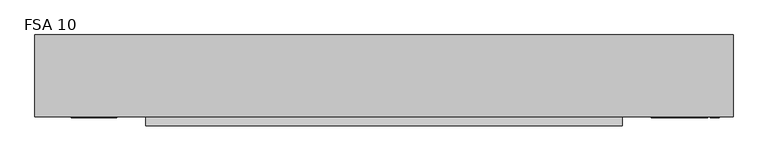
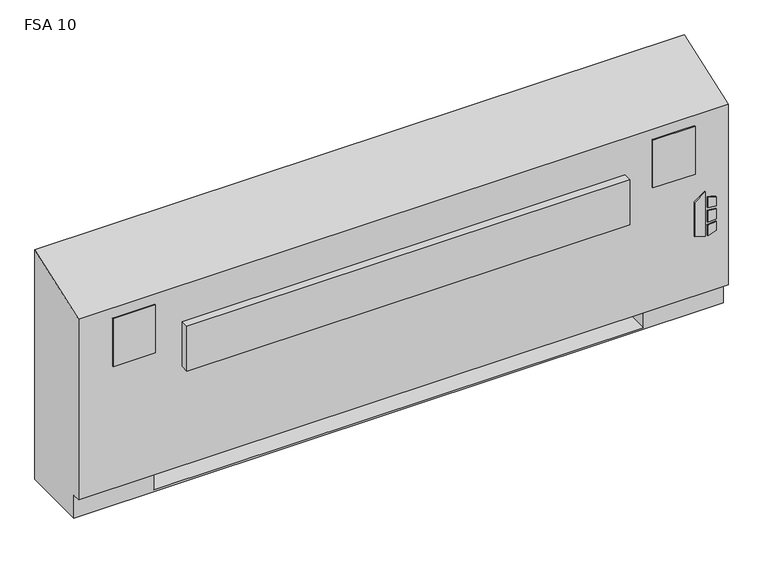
"""IFC4 building model written with IfcOpenShell, lengths in millimetres: proxy geometry, Vertical_Fan_Coil_Unit_-_FSA_-_IEC_-_4-Pipe_FS-FR_LH_2022 : FSA 10."""

from ifc_helpers import new_model, si_unit, point, frame, frame_2d, origin, place, context, project, spatial, polyline, circle_curve, trimmed, segment, composite_curve, outline, extrude, source, transform, mapped, element, save
from ifc_brep_helpers import plane_surface, revolved_surface, advanced_brep


def fsa_10_9be13929(model_context):
    return source(origin(), model_context, "Body", "SolidModel", [
        extrude(outline(polyline([(263.9480703, 1027.1868862), (254.0, 1059.3602728), (396.1709244, 1059.3602728), (373.1489183, 1027.1868862), (263.9480703, 1027.1868862)])), frame((0.0, 12.7, 0.0), z_axis=(0.0, 1.0, 0.0), x_axis=(0.0, 0.0, 1.0)), (0.0, 0.0, 1.0), 3.175),
        extrude(outline(polyline([(342.9473557, 1066.1186058), (339.7449632, 1092.2), (368.9738042, 1092.2), (377.0382193, 1066.1186058), (342.9473557, 1066.1186058)])), frame((0.0, 12.7, 0.0), z_axis=(0.0, 1.0, 0.0), x_axis=(0.0, 0.0, 1.0)), (0.0, 0.0, 1.0), 3.175),
        extrude(outline(polyline([(291.0838288, 1092.2), (287.4183279, 1066.1186058), (254.0, 1066.1186058), (262.6342372, 1092.2), (291.0838288, 1092.2)])), frame((0.0, 12.7, 0.0), z_axis=(0.0, 1.0, 0.0), x_axis=(0.0, 0.0, 1.0)), (0.0, 0.0, 1.0), 3.175),
        extrude(outline(polyline([(330.3989903, 1092.2), (332.6808166, 1066.1186058), (296.7432681, 1066.1186058), (299.4845331, 1092.2), (330.3989903, 1092.2)])), frame((0.0, 12.7, 0.0), z_axis=(0.0, 1.0, 0.0), x_axis=(0.0, 0.0, 1.0)), (0.0, 0.0, 1.0), 3.175),
        extrude(outline(polyline([(1009.65, 223.266), (1009.65, 81.534), (889.0, 81.534), (889.0, 223.266), (1009.65, 223.266)])), frame((0.0, 0.0, 327.025), z_axis=(0.0, 0.0, 1.0), x_axis=(1.0, 0.0, 0.0)), (0.0, 0.0, 1.0), 260.35),
        extrude(outline(polyline([(-596.9, 12.7), (-723.9, 12.7), (-723.9, 15.875), (-596.9, 15.875), (-596.9, 12.7)])), frame((0.0, 0.0, 463.55), z_axis=(0.0, 0.0, 1.0), x_axis=(1.0, 0.0, 0.0)), (0.0, 0.0, 1.0), 152.4),
        extrude(outline(polyline([(1028.7, 12.7), (901.7, 12.7), (901.7, 15.875), (1028.7, 15.875), (1028.7, 12.7)])), frame((0.0, 0.0, 463.55), z_axis=(0.0, 0.0, 1.0), x_axis=(1.0, 0.0, 0.0)), (0.0, 0.0, 1.0), 152.4),
        extrude(outline(composite_curve([segment(trimmed(circle_curve(frame_2d((-647.7, 130.175)), 9.525), [point((-657.225, 130.175))], [point((-638.175, 130.175))], False, "CARTESIAN"), True, "CONTINUOUS"), segment(trimmed(circle_curve(frame_2d((-647.7, 130.175)), 9.525), [point((-638.175, 130.175))], [point((-657.225, 130.175))], False, "CARTESIAN"), True, "CONTINUOUS")], self_intersect=False)), frame((0.0, 0.0, 101.6), z_axis=(0.0, 0.0, 1.0), x_axis=(1.0, 0.0, 0.0)), (0.0, 0.0, 1.0), 25.4),
        extrude(outline(polyline([(-749.3, 63.5), (-749.3, 196.85), (-584.2, 196.85), (-584.2, 63.5), (-749.3, 63.5)])), frame((0.0, 0.0, 127.0), z_axis=(0.0, 0.0, 1.0), x_axis=(1.0, 0.0, 0.0)), (0.0, 0.0, 1.0), 50.8),
        extrude(outline(polyline([(819.15, -9.525), (-514.35, -9.525), (-514.35, 15.875), (819.15, 15.875), (819.15, -9.525)])), frame((0.0, 0.0, 389.3009245), z_axis=(0.0, 0.0, 1.0), x_axis=(1.0, 0.0, 0.0)), (0.0, 0.0, 1.0), 142.875),
        extrude(outline(composite_curve([segment(trimmed(circle_curve(frame_2d((109.0168, 460.0194)), 7.9375), [point((109.0168, 467.9569))], [point((109.0168, 452.0819))], False, "CARTESIAN"), True, "CONTINUOUS"), segment(trimmed(circle_curve(frame_2d((109.0168, 460.0194)), 7.9375), [point((109.0168, 452.0819))], [point((109.0168, 467.9569))], False, "CARTESIAN"), True, "CONTINUOUS")], self_intersect=False)), frame((-635.0, 0.0, 0.0), z_axis=(1.0, 0.0, 0.0), x_axis=(0.0, 1.0, 0.0)), (0.0, 0.0, 1.0), 50.8),
        extrude(outline(composite_curve([segment(trimmed(circle_curve(frame_2d((172.085, 460.0194)), 7.9375), [point((172.085, 467.9569))], [point((172.085, 452.0819))], False, "CARTESIAN"), True, "CONTINUOUS"), segment(trimmed(circle_curve(frame_2d((172.085, 460.0194)), 7.9375), [point((172.085, 452.0819))], [point((172.085, 467.9569))], False, "CARTESIAN"), True, "CONTINUOUS")], self_intersect=False)), frame((-635.0, 0.0, 0.0), z_axis=(1.0, 0.0, 0.0), x_axis=(0.0, 1.0, 0.0)), (0.0, 0.0, 1.0), 50.8),
        extrude(outline(composite_curve([segment(trimmed(circle_curve(frame_2d((53.975, 416.56)), 7.9502), [point((53.975, 424.5102))], [point((53.975, 408.6098))], False, "CARTESIAN"), True, "CONTINUOUS"), segment(trimmed(circle_curve(frame_2d((53.975, 416.56)), 7.9502), [point((53.975, 408.6098))], [point((53.975, 424.5102))], False, "CARTESIAN"), True, "CONTINUOUS")], self_intersect=False)), frame((-635.0, 0.0, 0.0), z_axis=(1.0, 0.0, 0.0), x_axis=(0.0, 1.0, 0.0)), (0.0, 0.0, 1.0), 50.8),
        extrude(outline(composite_curve([segment(trimmed(circle_curve(frame_2d((130.175, 554.99)), 7.9502), [point((130.175, 562.9402))], [point((130.175, 547.0398))], False, "CARTESIAN"), True, "CONTINUOUS"), segment(trimmed(circle_curve(frame_2d((130.175, 554.99)), 7.9502), [point((130.175, 547.0398))], [point((130.175, 562.9402))], False, "CARTESIAN"), True, "CONTINUOUS")], self_intersect=False)), frame((-635.0, 0.0, 0.0), z_axis=(1.0, 0.0, 0.0), x_axis=(0.0, 1.0, 0.0)), (0.0, 0.0, 1.0), 50.8),
        advanced_brep(
        [(-825.5, 244.475, 0.0), (1130.3, 244.475, 0.0), (1130.3, 41.275, 0.0), (-825.5, 41.275, 0.0), (-825.5, 244.475, 730.25), (1130.3, 244.475, 730.25), (889.0, 244.475, 73.025), (1117.6, 244.475, 73.025), (1117.6, 244.475, 654.05), (889.0, 244.475, 654.05), (889.0, 244.475, 414.8650565), (917.575, 244.475, 414.8650565), (917.575, 244.475, 385.2349435), (889.0, 244.475, 385.2349435), (889.0, 244.475, 287.3375), (917.575, 244.475, 287.3375), (917.575, 244.475, 258.7625), (889.0, 244.475, 258.7625), (889.0, 244.475, 141.2875), (917.575, 244.475, 141.2875), (917.575, 244.475, 112.7125), (889.0, 244.475, 112.7125), (-584.2, 244.475, 654.05), (-812.8, 244.475, 654.05), (-812.8, 244.475, 73.025), (-584.2, 244.475, 73.025), (-584.2, 244.475, 112.7125), (-612.775, 244.475, 112.7125), (-612.775, 244.475, 141.2875), (-584.2, 244.475, 141.2875), (-584.2, 244.475, 258.7625), (-612.775, 244.475, 258.7625), (-612.775, 244.475, 287.3375), (-584.2, 244.475, 287.3375), (-584.2, 244.475, 385.2349435), (-612.775, 244.475, 385.2349435), (-612.775, 244.475, 414.8650565), (-584.2, 244.475, 414.8650565), (907.2626, 244.475, 127.0), (896.1374, 244.475, 127.0), (907.2626, 244.475, 400.05), (896.1374, 244.475, 400.05), (907.2626, 244.475, 273.05), (896.1374, 244.475, 273.05), (-591.3374, 244.475, 127.0), (-602.4626, 244.475, 127.0), (-591.3374, 244.475, 273.05), (-602.4626, 244.475, 273.05), (-591.3374, 244.475, 400.05), (-602.4626, 244.475, 400.05), (-825.5, 41.275, 73.025), (-825.5, 15.875, 73.025), (-825.5, 15.875, 647.7), (1130.3, 15.875, 73.025), (1130.3, 15.875, 647.7), (1130.3, 41.275, 73.025), (-584.2, 41.275, 73.025), (-584.2, 225.425, 73.025), (889.0, 225.425, 73.025), (889.0, 41.275, 73.025), (889.0, 41.275, 6.35), (-584.2, 41.275, 6.35), (889.0, 41.275, 654.05), (1117.6, 41.275, 654.05), (1117.6, 41.275, 73.025), (889.0, 41.275, 73.025), (-584.2, 41.275, 654.05), (-584.2, 41.275, 73.025), (-812.8, 41.275, 73.025), (-812.8, 41.275, 654.05), (889.0, 225.425, 73.025), (889.0, 238.125, 112.7125), (889.0, 238.125, 141.2875), (889.0, 238.125, 258.7625), (889.0, 238.125, 287.3375), (889.0, 238.125, 385.2349435), (889.0, 238.125, 414.8650565), (-584.2, 225.425, 73.025), (-584.2, 238.125, 414.8650565), (-584.2, 238.125, 385.2349435), (-584.2, 238.125, 287.3375), (-584.2, 238.125, 258.7625), (-584.2, 238.125, 141.2875), (-584.2, 238.125, 112.7125), (-584.2, 225.425, 6.35), (889.0, 225.425, 6.35), (917.575, 238.125, 112.7125), (917.575, 238.125, 141.2875), (896.1374, 238.125, 127.0), (907.2626, 238.125, 127.0), (917.575, 238.125, 258.7625), (917.575, 238.125, 287.3375), (896.1374, 238.125, 273.05), (907.2626, 238.125, 273.05), (917.575, 238.125, 385.2349435), (917.575, 238.125, 414.8650565), (896.1374, 238.125, 400.05), (907.2626, 238.125, 400.05), (-612.775, 238.125, 141.2875), (-612.775, 238.125, 112.7125), (-602.4626, 238.125, 127.0), (-591.3374, 238.125, 127.0), (-612.775, 238.125, 287.3375), (-612.775, 238.125, 258.7625), (-602.4626, 238.125, 273.05), (-591.3374, 238.125, 273.05), (-612.775, 238.125, 414.8650565), (-612.775, 238.125, 385.2349435), (-602.4626, 238.125, 400.05), (-591.3374, 238.125, 400.05)],
        [
            (0, 1),
            (1, 2),
            (2, 3),
            (3, 0),
            (0, 4),
            (4, 5),
            (5, 1),
            (6, 7),
            (7, 8),
            (8, 9),
            (9, 10),
            (10, 11),
            (11, 12),
            (12, 13),
            (13, 14),
            (14, 15),
            (15, 16),
            (16, 17),
            (17, 18),
            (18, 19),
            (19, 20),
            (20, 21),
            (21, 6),
            (22, 23),
            (23, 24),
            (24, 25),
            (25, 26),
            (26, 27),
            (27, 28),
            (28, 29),
            (29, 30),
            (30, 31),
            (31, 32),
            (32, 33),
            (33, 34),
            (34, 35),
            (35, 36),
            (36, 37),
            (37, 22),
            (38, 39, circle_curve(frame((901.7, 244.475, 127.0), z_axis=(0.0, -1.0, 0.0), x_axis=(-1.0, 0.0, 0.0)), 5.5626)),
            (39, 38, circle_curve(frame((901.7, 244.475, 127.0), z_axis=(0.0, -1.0, 0.0), x_axis=(-1.0, 0.0, 0.0)), 5.5626)),
            (40, 41, circle_curve(frame((901.7, 244.475, 400.05), z_axis=(0.0, -1.0, 0.0), x_axis=(-1.0, 0.0, 0.0)), 5.5626)),
            (41, 40, circle_curve(frame((901.7, 244.475, 400.05), z_axis=(0.0, -1.0, 0.0), x_axis=(-1.0, 0.0, 0.0)), 5.5626)),
            (42, 43, circle_curve(frame((901.7, 244.475, 273.05), z_axis=(0.0, -1.0, 0.0), x_axis=(-1.0, 0.0, 0.0)), 5.5626)),
            (43, 42, circle_curve(frame((901.7, 244.475, 273.05), z_axis=(0.0, -1.0, 0.0), x_axis=(-1.0, 0.0, 0.0)), 5.5626)),
            (44, 45, circle_curve(frame((-596.9, 244.475, 127.0), z_axis=(0.0, -1.0, 0.0), x_axis=(-1.0, 0.0, 0.0)), 5.5626)),
            (45, 44, circle_curve(frame((-596.9, 244.475, 127.0), z_axis=(0.0, -1.0, 0.0), x_axis=(-1.0, 0.0, 0.0)), 5.5626)),
            (46, 47, circle_curve(frame((-596.9, 244.475, 273.05), z_axis=(0.0, -1.0, 0.0), x_axis=(-1.0, 0.0, 0.0)), 5.5626)),
            (47, 46, circle_curve(frame((-596.9, 244.475, 273.05), z_axis=(0.0, -1.0, 0.0), x_axis=(-1.0, 0.0, 0.0)), 5.5626)),
            (48, 49, circle_curve(frame((-596.9, 244.475, 400.05), z_axis=(0.0, -1.0, 0.0), x_axis=(-1.0, 0.0, 0.0)), 5.5626)),
            (49, 48, circle_curve(frame((-596.9, 244.475, 400.05), z_axis=(0.0, -1.0, 0.0), x_axis=(-1.0, 0.0, 0.0)), 5.5626)),
            (3, 50),
            (50, 51),
            (51, 52),
            (52, 4),
            (51, 53),
            (53, 54),
            (54, 52),
            (5, 54),
            (53, 55),
            (55, 2),
            (50, 56),
            (56, 57),
            (57, 58),
            (58, 59),
            (59, 55),
            (59, 60),
            (60, 61),
            (61, 56),
            (62, 63),
            (63, 64),
            (64, 65),
            (65, 62),
            (66, 67),
            (67, 68),
            (68, 69),
            (69, 66),
            (65, 70),
            (70, 6),
            (21, 71),
            (71, 72),
            (72, 18),
            (17, 73),
            (73, 74),
            (74, 14),
            (13, 75),
            (75, 76),
            (76, 10),
            (9, 62),
            (64, 7),
            (63, 8),
            (69, 23),
            (22, 66),
            (68, 24),
            (67, 77),
            (77, 25),
            (37, 78),
            (78, 79),
            (79, 34),
            (33, 80),
            (80, 81),
            (81, 30),
            (29, 82),
            (82, 83),
            (83, 26),
            (57, 84),
            (84, 85),
            (85, 58),
            (85, 60),
            (84, 61),
            (71, 86),
            (86, 87),
            (87, 72),
            (88, 89, circle_curve(frame((901.7, 238.125, 127.0), z_axis=(0.0, 1.0, 0.0), x_axis=(-1.0, 0.0, 0.0)), 5.5626)),
            (89, 88, circle_curve(frame((901.7, 238.125, 127.0), z_axis=(0.0, 1.0, 0.0), x_axis=(-1.0, 0.0, 0.0)), 5.5626)),
            (73, 90),
            (90, 91),
            (91, 74),
            (92, 93, circle_curve(frame((901.7, 238.125, 273.05), z_axis=(0.0, 1.0, 0.0), x_axis=(-1.0, 0.0, 0.0)), 5.5626)),
            (93, 92, circle_curve(frame((901.7, 238.125, 273.05), z_axis=(0.0, 1.0, 0.0), x_axis=(-1.0, 0.0, 0.0)), 5.5626)),
            (75, 94),
            (94, 95),
            (95, 76),
            (96, 97, circle_curve(frame((901.7, 238.125, 400.05), z_axis=(0.0, 1.0, 0.0), x_axis=(-1.0, 0.0, 0.0)), 5.5626)),
            (97, 96, circle_curve(frame((901.7, 238.125, 400.05), z_axis=(0.0, 1.0, 0.0), x_axis=(-1.0, 0.0, 0.0)), 5.5626)),
            (98, 99),
            (99, 83),
            (82, 98),
            (100, 101, circle_curve(frame((-596.9, 238.125, 127.0), z_axis=(0.0, 1.0, 0.0), x_axis=(-1.0, 0.0, 0.0)), 5.5626)),
            (101, 100, circle_curve(frame((-596.9, 238.125, 127.0), z_axis=(0.0, 1.0, 0.0), x_axis=(-1.0, 0.0, 0.0)), 5.5626)),
            (102, 103),
            (103, 81),
            (80, 102),
            (104, 105, circle_curve(frame((-596.9, 238.125, 273.05), z_axis=(0.0, 1.0, 0.0), x_axis=(-1.0, 0.0, 0.0)), 5.5626)),
            (105, 104, circle_curve(frame((-596.9, 238.125, 273.05), z_axis=(0.0, 1.0, 0.0), x_axis=(-1.0, 0.0, 0.0)), 5.5626)),
            (106, 107),
            (107, 79),
            (78, 106),
            (108, 109, circle_curve(frame((-596.9, 238.125, 400.05), z_axis=(0.0, 1.0, 0.0), x_axis=(-1.0, 0.0, 0.0)), 5.5626)),
            (109, 108, circle_curve(frame((-596.9, 238.125, 400.05), z_axis=(0.0, 1.0, 0.0), x_axis=(-1.0, 0.0, 0.0)), 5.5626)),
            (87, 19),
            (86, 20),
            (91, 15),
            (90, 16),
            (95, 11),
            (94, 12),
            (28, 98),
            (99, 27),
            (32, 102),
            (103, 31),
            (36, 106),
            (107, 35),
            (88, 39),
            (38, 89),
            (96, 41),
            (40, 97),
            (92, 43),
            (42, 93),
            (100, 45),
            (44, 101),
            (104, 47),
            (46, 105),
            (108, 49),
            (48, 109),
        ],
        [
            plane_surface(frame((-825.5, 244.475, 0.0), z_axis=(0.0, 0.0, -1.0), x_axis=(1.0, 0.0, 0.0))),
            plane_surface(frame((1130.3, 244.475, 730.25), z_axis=(0.0, 1.0, 0.0), x_axis=(0.0, 0.0, -1.0))),
            plane_surface(frame((-825.5, 244.475, 730.25), z_axis=(-1.0, 0.0, 0.0), x_axis=(0.0, 0.0, -1.0))),
            plane_surface(frame((-825.5, 15.875, 730.25), z_axis=(0.0, -1.0, 0.0), x_axis=(0.0, 0.0, -1.0))),
            plane_surface(frame((1130.3, 15.875, 730.25), z_axis=(1.0, 0.0, 0.0), x_axis=(0.0, 0.0, -1.0))),
            plane_surface(frame((-825.5, 15.875, 73.025), z_axis=(0.0, 0.0, -1.0), x_axis=(1.0, 0.0, 0.0))),
            plane_surface(frame((-825.5, 41.275, 73.025), z_axis=(0.0, -1.0, 0.0), x_axis=(1.0, 0.0, 0.0))),
            plane_surface(frame((889.0, 41.275, 654.05), z_axis=(0.0, 1.0, 0.0), x_axis=(0.0, 0.0, -1.0))),
            plane_surface(frame((889.0, 41.275, 654.05), z_axis=(1.0, 0.0, 0.0), x_axis=(0.0, 1.0, 0.0))),
            plane_surface(frame((889.0, 41.275, 73.025), z_axis=(0.0, 0.0, 1.0), x_axis=(0.0, 1.0, 0.0))),
            plane_surface(frame((1117.6, 41.275, 73.025), z_axis=(-1.0, 0.0, 0.0), x_axis=(0.0, 1.0, 0.0))),
            plane_surface(frame((1117.6, 41.275, 654.05), z_axis=(0.0, 0.0, -1.0), x_axis=(0.0, 1.0, 0.0))),
            plane_surface(frame((-584.2, 41.275, 654.05), z_axis=(0.0, 0.0, -1.0), x_axis=(0.0, 1.0, 0.0))),
            plane_surface(frame((-812.8, 41.275, 654.05), z_axis=(1.0, 0.0, 0.0), x_axis=(0.0, 1.0, 0.0))),
            plane_surface(frame((-812.8, 41.275, 73.025), z_axis=(0.0, 0.0, 1.0), x_axis=(0.0, 1.0, 0.0))),
            plane_surface(frame((-584.2, 41.275, 73.025), z_axis=(-1.0, 0.0, 0.0), x_axis=(0.0, 1.0, 0.0))),
            plane_surface(frame((889.0, 225.425, 73.025), z_axis=(0.0, -1.0, 0.0), x_axis=(0.0, 0.0, -1.0))),
            plane_surface(frame((889.0, 225.425, 73.025), z_axis=(-1.0, 0.0, 0.0), x_axis=(0.0, -1.0, 0.0))),
            plane_surface(frame((889.0, 225.425, 6.35), z_axis=(0.0, 0.0, 1.0), x_axis=(0.0, -1.0, 0.0))),
            plane_surface(frame((-584.2, 225.425, 6.35), z_axis=(1.0, 0.0, 0.0), x_axis=(0.0, -1.0, 0.0))),
            plane_surface(frame((917.575, 238.125, 141.2875), z_axis=(0.0, -1.0, 0.0), x_axis=(-1.0, 0.0, 0.0))),
            plane_surface(frame((889.0, 244.475, 141.2875), z_axis=(0.0, 0.0, 1.0), x_axis=(0.0, -1.0, 0.0))),
            plane_surface(frame((917.575, 244.475, 141.2875), z_axis=(1.0, 0.0, 0.0), x_axis=(0.0, -1.0, 0.0))),
            plane_surface(frame((917.575, 244.475, 112.7125), z_axis=(0.0, 0.0, -1.0), x_axis=(0.0, -1.0, 0.0))),
            plane_surface(frame((889.0, 244.475, 287.3375), z_axis=(0.0, 0.0, 1.0), x_axis=(0.0, -1.0, 0.0))),
            plane_surface(frame((917.575, 244.475, 287.3375), z_axis=(1.0, 0.0, 0.0), x_axis=(0.0, -1.0, 0.0))),
            plane_surface(frame((917.575, 244.475, 258.7625), z_axis=(0.0, 0.0, -1.0), x_axis=(0.0, -1.0, 0.0))),
            plane_surface(frame((889.0, 244.475, 414.8650565), z_axis=(0.0, 0.0, 1.0), x_axis=(0.0, -1.0, 0.0))),
            plane_surface(frame((917.575, 244.475, 414.8650565), z_axis=(1.0, 0.0, 0.0), x_axis=(0.0, -1.0, 0.0))),
            plane_surface(frame((917.575, 244.475, 385.2349435), z_axis=(0.0, 0.0, -1.0), x_axis=(0.0, -1.0, 0.0))),
            plane_surface(frame((-612.775, 244.475, 141.2875), z_axis=(0.0, 0.0, 1.0), x_axis=(0.0, -1.0, 0.0))),
            plane_surface(frame((-584.2, 244.475, 112.7125), z_axis=(0.0, 0.0, -1.0), x_axis=(0.0, -1.0, 0.0))),
            plane_surface(frame((-612.775, 244.475, 112.7125), z_axis=(-1.0, 0.0, 0.0), x_axis=(0.0, -1.0, 0.0))),
            plane_surface(frame((-612.775, 244.475, 287.3375), z_axis=(0.0, 0.0, 1.0), x_axis=(0.0, -1.0, 0.0))),
            plane_surface(frame((-584.2, 244.475, 258.7625), z_axis=(0.0, 0.0, -1.0), x_axis=(0.0, -1.0, 0.0))),
            plane_surface(frame((-612.775, 244.475, 258.7625), z_axis=(-1.0, 0.0, 0.0), x_axis=(0.0, -1.0, 0.0))),
            plane_surface(frame((-612.775, 244.475, 414.8650565), z_axis=(0.0, 0.0, 1.0), x_axis=(0.0, -1.0, 0.0))),
            plane_surface(frame((-584.2, 244.475, 385.2349435), z_axis=(0.0, 0.0, -1.0), x_axis=(0.0, -1.0, 0.0))),
            plane_surface(frame((-612.775, 244.475, 385.2349435), z_axis=(-1.0, 0.0, 0.0), x_axis=(0.0, -1.0, 0.0))),
            revolved_surface(polyline([(896.1374000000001, 238.125, 127.0), (896.1374000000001, 244.475, 127.0)]), (901.7, 244.475, 127.0), (0.0, -1.0, 0.0)),
            revolved_surface(polyline([(896.1374000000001, 238.125, 400.05), (896.1374000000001, 244.475, 400.05)]), (901.7, 244.475, 400.05), (0.0, -1.0, 0.0)),
            revolved_surface(polyline([(896.1374000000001, 238.125, 273.05), (896.1374000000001, 244.475, 273.05)]), (901.7, 244.475, 273.05), (0.0, -1.0, 0.0)),
            revolved_surface(polyline([(-602.4626, 238.125, 127.0), (-602.4626, 244.475, 127.0)]), (-596.9, 244.475, 127.0), (0.0, -1.0, 0.0)),
            revolved_surface(polyline([(-602.4626, 238.125, 273.05), (-602.4626, 244.475, 273.05)]), (-596.9, 244.475, 273.05), (0.0, -1.0, 0.0)),
            revolved_surface(polyline([(-602.4626, 238.125, 400.05), (-602.4626, 244.475, 400.05)]), (-596.9, 244.475, 400.05), (0.0, -1.0, 0.0)),
            plane_surface(frame((-825.5, 244.475, 730.25), z_axis=(0.0, -0.33964446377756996, 0.9405538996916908), x_axis=(1.0, 0.0, 0.0))),
        ],
        [
            (0, [[1, 2, 3, 4]]),
            (1, [[-1, 5, 6, 7], [8, 9, 10, 11, 12, 13, 14, 15, 16, 17, 18, 19, 20, 21, 22, 23], [24, 25, 26, 27, 28, 29, 30, 31, 32, 33, 34, 35, 36, 37, 38, 39], [40, 41], [42, 43], [44, 45], [46, 47], [48, 49], [50, 51]]),
            (2, [[-5, -4, 52, 53, 54, 55]]),
            (3, [[56, 57, 58, -54]]),
            (4, [[-7, 59, -57, 60, 61, -2]]),
            (5, [[-53, 62, 63, 64, 65, 66, -60, -56]]),
            (6, [[-3, -61, -66, 67, 68, 69, -62, -52]]),
            (7, [[70, 71, 72, 73]]),
            (7, [[74, 75, 76, 77]]),
            (8, [[-73, 78, 79, -23, 80, 81, 82, -19, 83, 84, 85, -15, 86, 87, 88, -11, 89]]),
            (9, [[-72, 90, -8, -79, -78]]),
            (10, [[-71, 91, -9, -90]]),
            (11, [[-70, -89, -10, -91]]),
            (12, [[-77, 92, -24, 93]]),
            (13, [[-76, 94, -25, -92]]),
            (14, [[-75, 95, 96, -26, -94]]),
            (15, [[-74, -93, -39, 97, 98, 99, -35, 100, 101, 102, -31, 103, 104, 105, -27, -96, -95]]),
            (16, [[-64, 106, 107, 108]]),
            (17, [[-108, 109, -67, -65]]),
            (18, [[-107, 110, -68, -109]]),
            (19, [[-106, -63, -69, -110]]),
            (20, [[111, 112, 113, -81], [114, 115]]),
            (20, [[116, 117, 118, -84], [119, 120]]),
            (20, [[121, 122, 123, -87], [124, 125]]),
            (20, [[126, 127, -104, 128], [129, 130]]),
            (20, [[131, 132, -101, 133], [134, 135]]),
            (20, [[136, 137, -98, 138], [139, 140]]),
            (21, [[-113, 141, -20, -82]]),
            (22, [[-112, 142, -21, -141]]),
            (23, [[-111, -80, -22, -142]]),
            (24, [[-118, 143, -16, -85]]),
            (25, [[-117, 144, -17, -143]]),
            (26, [[-116, -83, -18, -144]]),
            (27, [[-123, 145, -12, -88]]),
            (28, [[-122, 146, -13, -145]]),
            (29, [[-121, -86, -14, -146]]),
            (30, [[-128, -103, -30, 147]]),
            (31, [[-127, 148, -28, -105]]),
            (32, [[-126, -147, -29, -148]]),
            (33, [[-133, -100, -34, 149]]),
            (34, [[-132, 150, -32, -102]]),
            (35, [[-131, -149, -33, -150]]),
            (36, [[-138, -97, -38, 151]]),
            (37, [[-137, 152, -36, -99]]),
            (38, [[-136, -151, -37, -152]]),
            (39, [[153, -40, 154, -114]]),
            (39, [[-153, -115, -154, -41]]),
            (40, [[155, -42, 156, -124]]),
            (40, [[-155, -125, -156, -43]]),
            (41, [[157, -44, 158, -119]]),
            (41, [[-157, -120, -158, -45]]),
            (42, [[159, -46, 160, -129]]),
            (42, [[-159, -130, -160, -47]]),
            (43, [[161, -48, 162, -134]]),
            (43, [[-161, -135, -162, -49]]),
            (44, [[163, -50, 164, -139]]),
            (44, [[-163, -140, -164, -51]]),
            (45, [[-6, -55, -58, -59]]),
        ],
    ),
    ])


if __name__ == "__main__":
    model = new_model("IFC4")
    model_context = context("Model", 3, world=origin())
    ifc_project = project(units=[si_unit("LENGTHUNIT", "METRE", prefix="MILLI")], contexts=[model_context])
    site = spatial("IfcSite", under=ifc_project)
    building = spatial("IfcBuilding", under=site)
    placement = place(None, origin())
    fsa_10_shape = fsa_10_9be13929(model_context)
    element("IfcBuildingElementProxy", 1, Name="Vertical_Fan_Coil_Unit_-_FSA_-_IEC_-_4-Pipe_FS-FR_LH_2022 : FSA 10", ObjectType="Vertical_Fan_Coil_Unit_-_FSA_-_IEC_-_4-Pipe_FS-FR_LH_2022 : FSA 10", at=placement, inside=building, context=model_context, shape_type="MappedRepresentation", body=[
        mapped(fsa_10_shape, transform((0.0, 0.0, 0.0), x_axis=(1.0, 0.0, 0.0), y_axis=(0.0, 1.0, 0.0), z_axis=(0.0, 0.0, 1.0))),
    ])
    save(model, "model.ifc")
